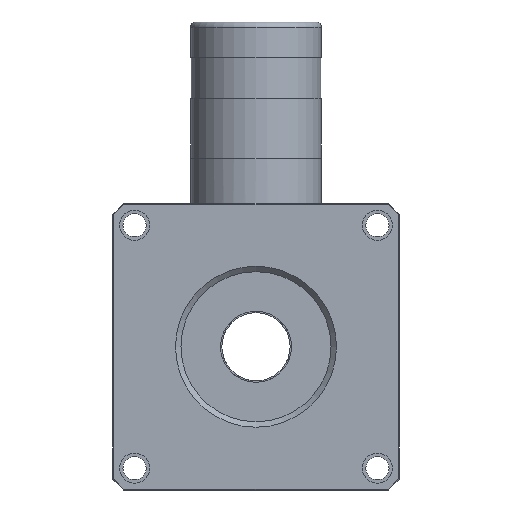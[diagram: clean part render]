
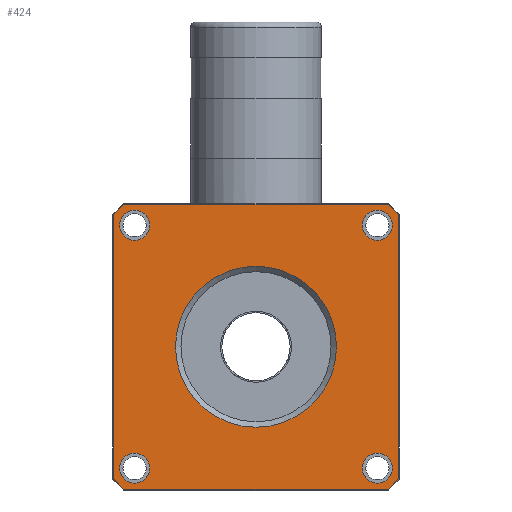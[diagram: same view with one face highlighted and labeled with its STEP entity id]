
A CAD part, front view. The second image highlights one B-rep face of the part: STEP entity #424.
In plain terms, the highlighted planar face has unit normal (0, -1, 0) as drawn and (0, 0, -1) by its records, which use the part's own axes.
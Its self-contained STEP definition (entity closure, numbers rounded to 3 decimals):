
#424=ADVANCED_FACE('',(#732,#733,#734,#735,#736,#737),#738,.F.);
#732=FACE_OUTER_BOUND('',#1123,.T.);
#733=FACE_BOUND('',#1124,.T.);
#734=FACE_BOUND('',#1125,.T.);
#735=FACE_BOUND('',#1126,.T.);
#736=FACE_BOUND('',#1127,.T.);
#737=FACE_BOUND('',#1128,.T.);
#738=PLANE('',#1129);
#1123=EDGE_LOOP('',(#1720,#1721,#1722,#1723,#1724,#1725,#1726,#1727));
#1124=EDGE_LOOP('',(#1728));
#1125=EDGE_LOOP('',(#1729));
#1126=EDGE_LOOP('',(#1730));
#1127=EDGE_LOOP('',(#1731));
#1128=EDGE_LOOP('',(#1732));
#1129=AXIS2_PLACEMENT_3D('',#1733,#1734,#1735);
#1720=ORIENTED_EDGE('',*,*,#2246,.T.);
#1721=ORIENTED_EDGE('',*,*,#2238,.T.);
#1722=ORIENTED_EDGE('',*,*,#2241,.T.);
#1723=ORIENTED_EDGE('',*,*,#2249,.T.);
#1724=ORIENTED_EDGE('',*,*,#2257,.T.);
#1725=ORIENTED_EDGE('',*,*,#2265,.T.);
#1726=ORIENTED_EDGE('',*,*,#2262,.T.);
#1727=ORIENTED_EDGE('',*,*,#2254,.T.);
#1728=ORIENTED_EDGE('',*,*,#2335,.T.);
#1729=ORIENTED_EDGE('',*,*,#2337,.F.);
#1730=ORIENTED_EDGE('',*,*,#2338,.F.);
#1731=ORIENTED_EDGE('',*,*,#2339,.F.);
#1732=ORIENTED_EDGE('',*,*,#2340,.F.);
#1733=CARTESIAN_POINT('',(0.0,0.0,-18.0));
#1734=DIRECTION('',(0.0,0.0,1.0));
#1735=DIRECTION('',(1.0,0.0,0.0));
#2238=EDGE_CURVE('',#2582,#2587,#2589,.T.);
#2241=EDGE_CURVE('',#2587,#2592,#2594,.T.);
#2246=EDGE_CURVE('',#2597,#2582,#2601,.T.);
#2249=EDGE_CURVE('',#2592,#2604,#2606,.T.);
#2254=EDGE_CURVE('',#2609,#2597,#2613,.T.);
#2257=EDGE_CURVE('',#2604,#2616,#2618,.T.);
#2262=EDGE_CURVE('',#2621,#2609,#2625,.T.);
#2265=EDGE_CURVE('',#2616,#2621,#2628,.T.);
#2335=EDGE_CURVE('',#2730,#2730,#2731,.T.);
#2337=EDGE_CURVE('',#2733,#2733,#2734,.T.);
#2338=EDGE_CURVE('',#2735,#2735,#2736,.T.);
#2339=EDGE_CURVE('',#2737,#2737,#2738,.T.);
#2340=EDGE_CURVE('',#2739,#2739,#2740,.T.);
#2582=VERTEX_POINT('',#3359);
#2587=VERTEX_POINT('',#3366);
#2589=LINE('',#3369,#3370);
#2592=VERTEX_POINT('',#3373);
#2594=LINE('',#3376,#3377);
#2597=VERTEX_POINT('',#3381);
#2601=LINE('',#3387,#3388);
#2604=VERTEX_POINT('',#3391);
#2606=LINE('',#3394,#3395);
#2609=VERTEX_POINT('',#3399);
#2613=LINE('',#3405,#3406);
#2616=VERTEX_POINT('',#3409);
#2618=LINE('',#3412,#3413);
#2621=VERTEX_POINT('',#3417);
#2625=LINE('',#3423,#3424);
#2628=LINE('',#3428,#3429);
#2730=VERTEX_POINT('',#3578);
#2731=CIRCLE('',#3579,29.5);
#2733=VERTEX_POINT('',#3581);
#2734=CIRCLE('',#3582,5.5);
#2735=VERTEX_POINT('',#3583);
#2736=CIRCLE('',#3584,5.5);
#2737=VERTEX_POINT('',#3585);
#2738=CIRCLE('',#3586,5.5);
#2739=VERTEX_POINT('',#3587);
#2740=CIRCLE('',#3588,5.5);
#3359=CARTESIAN_POINT('',(52.2,-48.376,-18.0));
#3366=CARTESIAN_POINT('',(48.376,-52.2,-18.0));
#3369=CARTESIAN_POINT('',(48.288,-52.288,-18.0));
#3370=VECTOR('',#4029,1.0);
#3373=CARTESIAN_POINT('',(-48.376,-52.2,-18.0));
#3376=CARTESIAN_POINT('',(-48.5,-52.2,-18.0));
#3377=VECTOR('',#4031,1.0);
#3381=CARTESIAN_POINT('',(52.2,48.376,-18.0));
#3387=CARTESIAN_POINT('',(52.2,-48.5,-18.0));
#3388=VECTOR('',#4035,1.0);
#3391=CARTESIAN_POINT('',(-52.2,-48.376,-18.0));
#3394=CARTESIAN_POINT('',(-52.288,-48.288,-18.0));
#3395=VECTOR('',#4037,1.0);
#3399=CARTESIAN_POINT('',(48.376,52.2,-18.0));
#3405=CARTESIAN_POINT('',(52.288,48.288,-18.0));
#3406=VECTOR('',#4041,1.0);
#3409=CARTESIAN_POINT('',(-52.2,48.376,-18.0));
#3412=CARTESIAN_POINT('',(-52.2,48.5,-18.0));
#3413=VECTOR('',#4043,1.0);
#3417=CARTESIAN_POINT('',(-48.376,52.2,-18.0));
#3423=CARTESIAN_POINT('',(48.5,52.2,-18.0));
#3424=VECTOR('',#4047,1.0);
#3428=CARTESIAN_POINT('',(-48.288,52.288,-18.0));
#3429=VECTOR('',#4049,1.0);
#3578=CARTESIAN_POINT('',(29.5,0.0,-18.0));
#3579=AXIS2_PLACEMENT_3D('',#4103,#4104,#4105);
#3581=CARTESIAN_POINT('',(-50.0,-44.5,-18.0));
#3582=AXIS2_PLACEMENT_3D('',#4106,#4107,#4108);
#3583=CARTESIAN_POINT('',(-50.0,44.5,-18.0));
#3584=AXIS2_PLACEMENT_3D('',#4109,#4110,#4111);
#3585=CARTESIAN_POINT('',(39.0,44.5,-18.0));
#3586=AXIS2_PLACEMENT_3D('',#4112,#4113,#4114);
#3587=CARTESIAN_POINT('',(39.0,-44.5,-18.0));
#3588=AXIS2_PLACEMENT_3D('',#4115,#4116,#4117);
#4029=DIRECTION('',(-0.707,-0.707,0.0));
#4031=DIRECTION('',(-1.0,0.,0.0));
#4035=DIRECTION('',(0.,-1.0,0.0));
#4037=DIRECTION('',(-0.707,0.707,0.0));
#4041=DIRECTION('',(0.707,-0.707,0.0));
#4043=DIRECTION('',(0.,1.0,0.0));
#4047=DIRECTION('',(1.0,0.0,0.0));
#4049=DIRECTION('',(0.707,0.707,0.0));
#4103=CARTESIAN_POINT('',(0.0,0.0,-18.0));
#4104=DIRECTION('',(0.0,0.0,1.0));
#4105=DIRECTION('',(1.0,0.0,0.0));
#4106=CARTESIAN_POINT('',(-44.5,-44.5,-18.0));
#4107=DIRECTION('',(0.0,0.0,-1.0));
#4108=DIRECTION('',(-1.0,0.0,0.0));
#4109=CARTESIAN_POINT('',(-44.5,44.5,-18.0));
#4110=DIRECTION('',(0.0,0.0,-1.0));
#4111=DIRECTION('',(-1.0,0.0,0.0));
#4112=CARTESIAN_POINT('',(44.5,44.5,-18.0));
#4113=DIRECTION('',(0.0,0.0,-1.0));
#4114=DIRECTION('',(-1.0,0.0,0.0));
#4115=CARTESIAN_POINT('',(44.5,-44.5,-18.0));
#4116=DIRECTION('',(0.0,0.0,-1.0));
#4117=DIRECTION('',(-1.0,0.0,0.0));
